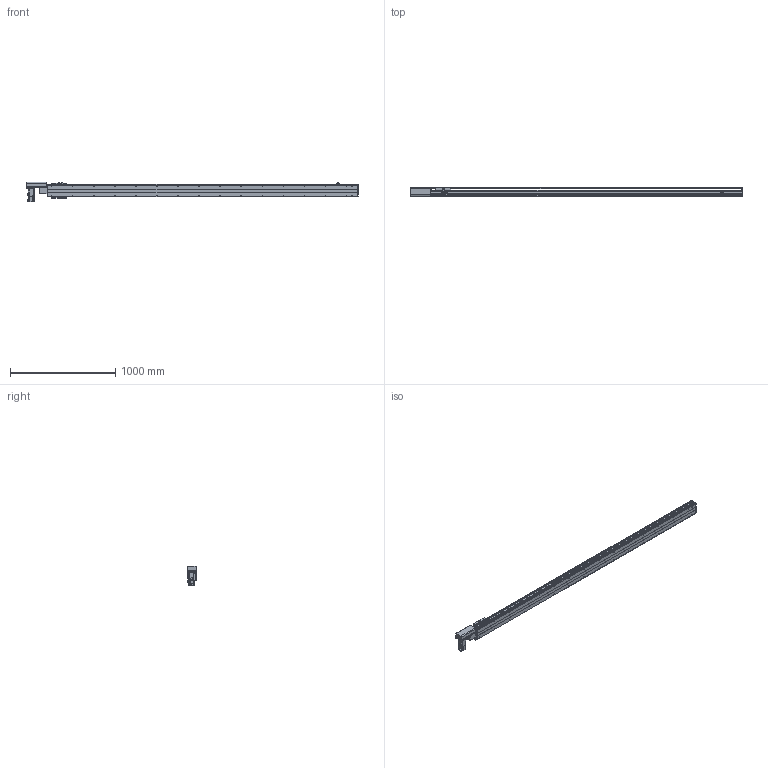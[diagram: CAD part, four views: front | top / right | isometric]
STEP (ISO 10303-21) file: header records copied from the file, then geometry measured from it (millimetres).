
FILE_DESCRIPTION( ( 'STEP AP214' ), '1' );
FILE_NAME( 'x:/temp/worker_27/temp/exporttempdir_6708_29_QOpn8/format_0/PBS120-P40-S2650-R-T40-C1-N(0).stp', '2022-06-06T00:11:00', ( 'License CC BY-ND 4.0' ), ( 'CADENAS' ), ' ', 'PARTsolutions', ' ' );
FILE_SCHEMA( ( 'AUTOMOTIVE_DESIGN { 1 0 10303 214 1 1 1 1 }' ) );
Length unit declared in the file: millimetre
Products named in the file (7): PBS120-P40-S2650-R-T40-C1-N(0); _PBS120-S2650()_body; _PBS120T-R_motors; _T40-p1; _PBS120_sliser; _PBS120_plant; _PBS120_sensor
Assembly tree (8 placements, depth 2):
  PBS120-P40-S2650-R-T40-C1-N(0)
    _PBS120-S2650()_body
    _PBS120T-R_motors
    _T40-p1
    _PBS120_sliser
    _PBS120_plant
    _PBS120_sensor  x3
Bounding box: 3151 x 83 x 189.7 mm (x, y, z)
Volume: 11331754.9 mm3; surface area: 2348872.9 mm2
Topology: 8 solids, 8 shells, 876 faces, 2236 edges, 1435 vertices
Faces by surface type: plane 565, cylinder 245, cone 64, torus 2
Full cylindrical faces by diameter (mm): 2.459 x6, 3.242 x4, 4 x2, 4.134 x4, 4.5 x10, 4.917 x36, 5.5 x11, 6 x2, 6.6 x1, 7 x2, 8.5 x4, 9 x4, 12 x1, 14 x1, 30 x2, 40 x1, 50 x2
Entity records: 28668 total; most frequent: DIRECTION 3932, CARTESIAN_POINT 3821, ORIENTED_EDGE 3598, EDGE_CURVE 1799, AXIS2_PLACEMENT_3D 1352, VERTEX_POINT 1241, LINE 1228, VECTOR 1228
